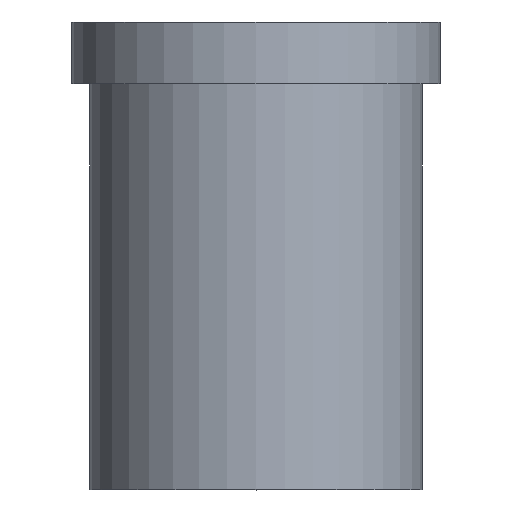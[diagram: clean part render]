
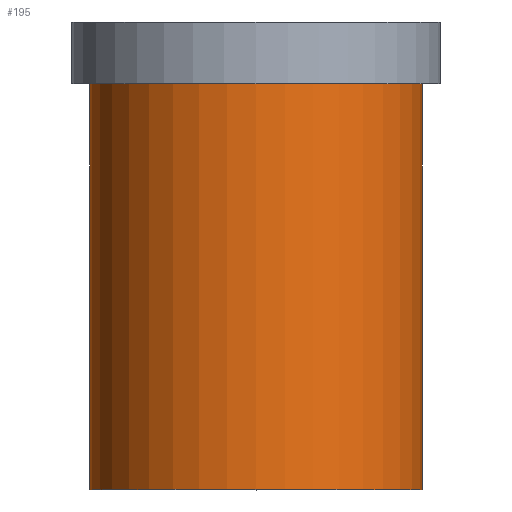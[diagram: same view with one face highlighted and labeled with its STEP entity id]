
A CAD part, top view. The second image highlights one B-rep face of the part: STEP entity #195.
In plain terms, the highlighted cylindrical face has radius 27 mm (diameter 54 mm), a full revolution.
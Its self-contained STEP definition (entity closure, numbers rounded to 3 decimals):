
#32=ORIENTED_EDGE('',*,*,#50,.T.);
#33=ORIENTED_EDGE('',*,*,#49,.F.);
#49=EDGE_CURVE('',#59,#59,#69,.T.);
#50=EDGE_CURVE('',#60,#60,#70,.T.);
#59=VERTEX_POINT('',#280);
#60=VERTEX_POINT('',#283);
#69=CIRCLE('',#213,27.);
#70=CIRCLE('',#215,27.);
#82=EDGE_LOOP('',(#32));
#83=EDGE_LOOP('',(#33));
#102=FACE_BOUND('',#82,.T.);
#103=FACE_BOUND('',#83,.T.);
#117=CYLINDRICAL_SURFACE('',#214,27.);
#195=ADVANCED_FACE('',(#102,#103),#117,.T.);
#213=AXIS2_PLACEMENT_3D('',#279,#241,#242);
#214=AXIS2_PLACEMENT_3D('',#281,#243,#244);
#215=AXIS2_PLACEMENT_3D('',#282,#245,#246);
#241=DIRECTION('',(0.,-1.,0.));
#242=DIRECTION('',(0.,0.,-1.));
#243=DIRECTION('',(0.,-1.,0.));
#244=DIRECTION('',(0.,0.,-1.));
#245=DIRECTION('',(0.,-1.,0.));
#246=DIRECTION('',(0.,0.,-1.));
#279=CARTESIAN_POINT('',(0.,0.,0.));
#280=CARTESIAN_POINT('',(0.,0.,-27.));
#281=CARTESIAN_POINT('',(0.,0.,0.));
#282=CARTESIAN_POINT('',(0.,66.,0.));
#283=CARTESIAN_POINT('',(0.,66.,-27.));
